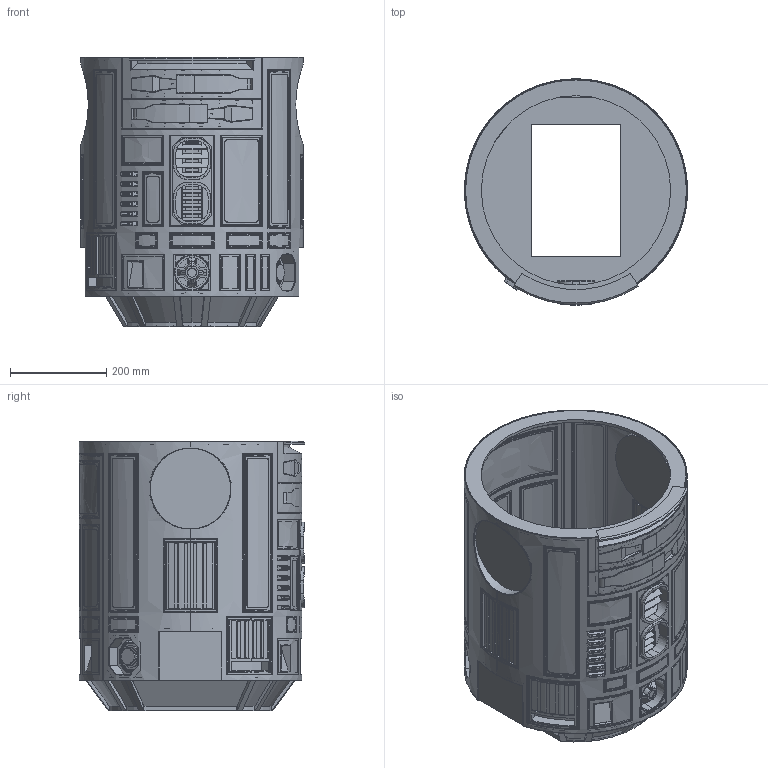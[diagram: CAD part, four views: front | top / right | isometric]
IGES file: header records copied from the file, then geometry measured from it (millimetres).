
Start section: 3D InterOp IGES (Version 21 0 3), Spatial Corp. Copyright (c) 1999-2007.
Global section: file name: CSR Body Assembly ANH - 20140506.igs; native system: Spatial Corp.; preprocessor: 3D InterOp GENERIC/IGES 3.0; author: Noname; organization: Noname; date: 20140522.014214; units: inch
Bounding box: 463.55 x 469.88 x 560.39 mm (x, y, z)
Surface area: 3508403.4 mm2 (no closed solid volume)
Topology: 0 solids, 0 shells, 2690 faces, 13582 edges, 13582 vertices
Faces by surface type: extrusion 2131, revolution 351, bspline 155, offset 53
